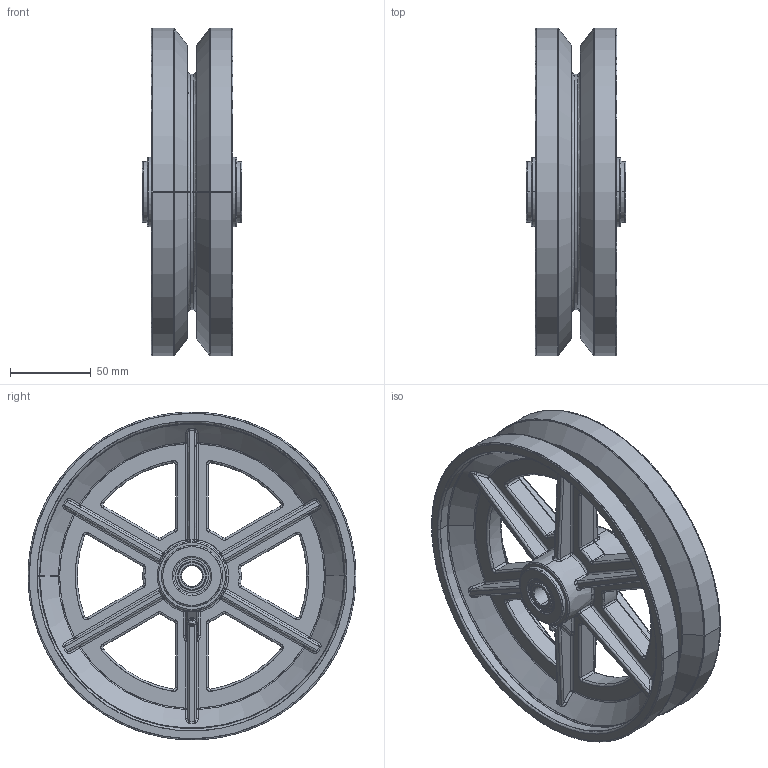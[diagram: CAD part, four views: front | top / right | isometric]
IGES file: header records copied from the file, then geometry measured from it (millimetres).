
Start section: SolidWorks IGES file using analytic representation for surfaces
Global section: file name: \\192.168.10.20\Nimesh\Tyler Manz\Output\2022-12-01\Caster Wheels\8'' X 2'' V Groove Wheel for Casters\SCC-VGR820 3D IGES.IGS; native system: SolidWorks 2016; preprocessor: SolidWorks 2016; author: rahul.sarma; date: 221206.004835; units: inch
Bounding box: 61.91 x 203.2 x 203.2 mm (x, y, z)
Surface area: 147733.6 mm2 (no closed solid volume)
Topology: 0 solids, 0 shells, 611 faces, 5846 edges, 5832 vertices
Faces by surface type: bspline 330, revolution 281
